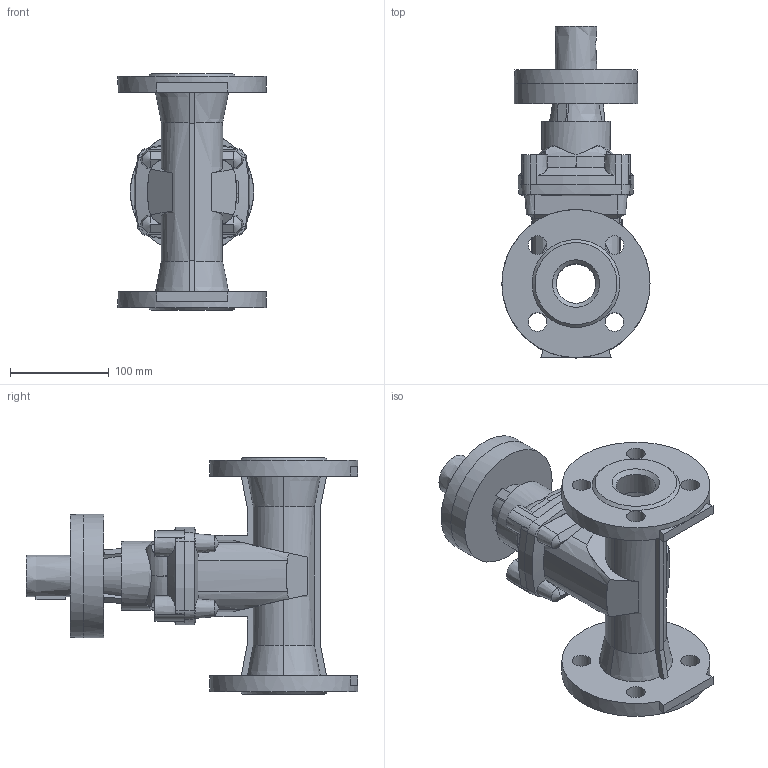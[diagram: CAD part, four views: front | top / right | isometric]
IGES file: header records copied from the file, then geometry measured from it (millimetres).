
Start section: SolidWorks IGES file using analytic representation for surfaces
Global section: file name: \\avksan2\techshare\PBM outline export from Enovia\O_15_70_DN040_X1X_AA0.igs; native system: SolidWorks 2012; preprocessor: SolidWorks 2012; author: pbm; date: 170310.094700; units: millimetre
Bounding box: 150 x 336 x 240 mm (x, y, z)
Surface area: 261717.7 mm2 (no closed solid volume)
Topology: 0 solids, 0 shells, 262 faces, 1462 edges, 1411 vertices
Faces by surface type: revolution 137, bspline 125
